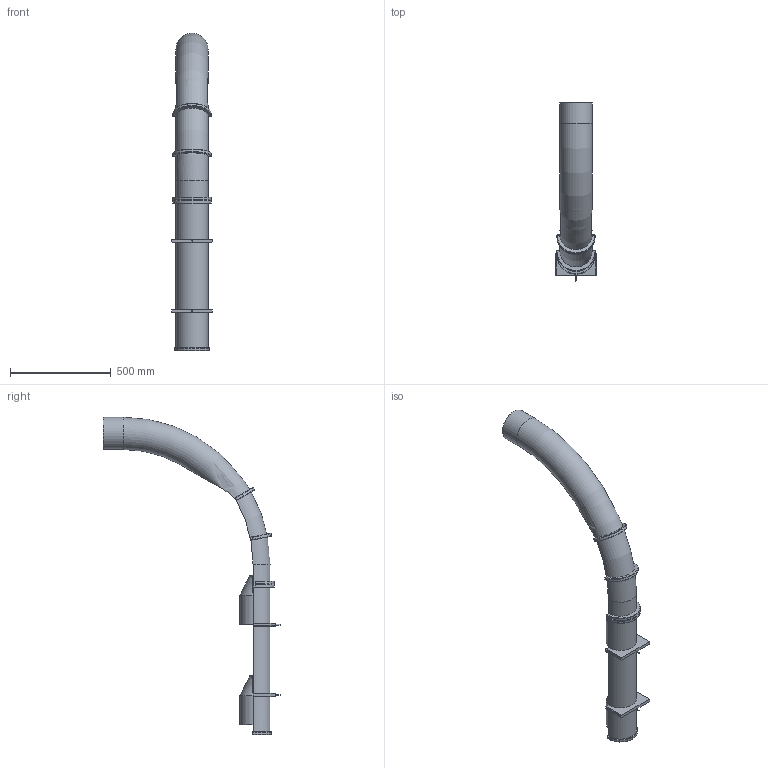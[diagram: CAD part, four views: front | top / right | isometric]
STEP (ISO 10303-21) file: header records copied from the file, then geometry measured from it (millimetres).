
FILE_DESCRIPTION(/* description */ (''),/* implementation_level */ '2;1');
FILE_NAME(/* name */ 'Q:\I_Simples\Library\Inventor\Abrollbuegel\DN160\10029\029_T.stp',/* time_stamp */ '2024-04-17T15:06:33+02:00',/* author */ ('Ru'),/* organization */ (''),/* preprocessor_version */ 'ST-DEVELOPER v18.1',/* originating_system */ 'Autodesk Inventor 2022',/* authorisation */ '');
FILE_SCHEMA (('AUTOMOTIVE_DESIGN { 1 0 10303 214 3 1 1 }'));
Length unit declared in the file: millimetre
Products named in the file (5): Assembly1; 0029_Bend; WUERTH 011539 38 self-tapping screw  DIN 7981 ST3.9x38-C-H VORDEF A2K
 ST; 0029_Halter2; Tüte110
Assembly tree (7 placements, depth 2):
  Assembly1
    0029_Bend
    WUERTH 011539 38 self-tapping screw  DIN 7981 ST3.9x38-C-H VORDEF A2K
 ST  x2
    0029_Halter2  x2
    Tüte110  x2
Bounding box: 200 x 883 x 1578.5 mm (x, y, z)
Volume: 9162727.8 mm3; surface area: 1734684.9 mm2
Topology: 9 solids, 9 shells, 250 faces, 576 edges, 346 vertices
Faces by surface type: cylinder 101, plane 89, sphere 30, torus 16, bspline 12, cone 2
Full cylindrical faces by diameter (mm): 3 x2, 3.9 x2, 7.5 x2, 153.6 x1, 160 x1
Entity records: 5965 total; most frequent: CARTESIAN_POINT 1518, DIRECTION 947, ORIENTED_EDGE 842, EDGE_CURVE 421, AXIS2_PLACEMENT_3D 372, VERTEX_POINT 251, LINE 203, VECTOR 203
